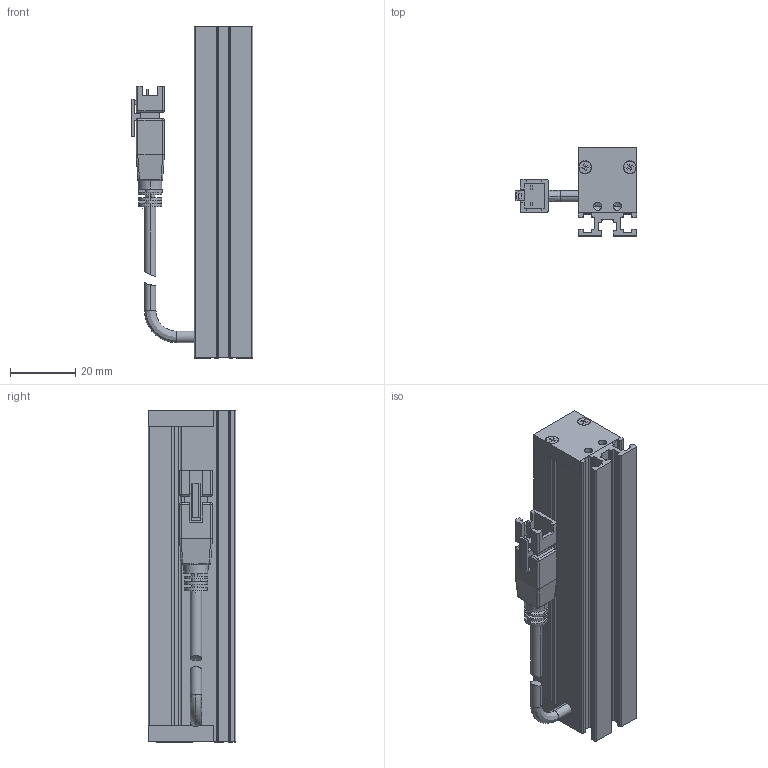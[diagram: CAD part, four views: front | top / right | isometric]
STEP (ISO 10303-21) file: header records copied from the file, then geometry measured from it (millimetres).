
FILE_DESCRIPTION (( 'STEP AP203' ), '1' );
FILE_NAME ('CK-BL10218.STEP', '2025-12-23T05:44:56', ( '' ), ( '' ), 'SwSTEP 2.0', 'SolidWorks 2022', '' );
FILE_SCHEMA (( 'CONFIG_CONTROL_DESIGN' ));
Length unit declared in the file: millimetre
Products named in the file (6): CK-BL10218-002A; CK-BL10218-001A; CK-BL10218-003A; CK-BL10218; 十字沉头螺丝 M2x10; 光源线-01
Assembly tree (9 placements, depth 2):
  CK-BL10218
    CK-BL10218-001A
    CK-BL10218-002A  x2
    CK-BL10218-003A
    光源线-01
    十字沉头螺丝 M2x10  x4
Bounding box: 37.34 x 27 x 102 mm (x, y, z)
Volume: 26657.2 mm3; surface area: 26314.3 mm2
Topology: 11 solids, 11 shells, 474 faces, 1231 edges, 780 vertices
Faces by surface type: plane 271, cylinder 149, cone 34, bspline 20
Entity records: 12442 total; most frequent: CARTESIAN_POINT 2514, ORIENTED_EDGE 1936, DIRECTION 1916, EDGE_CURVE 968, LINE 668, VECTOR 668, VERTEX_POINT 626, AXIS2_PLACEMENT_3D 624
